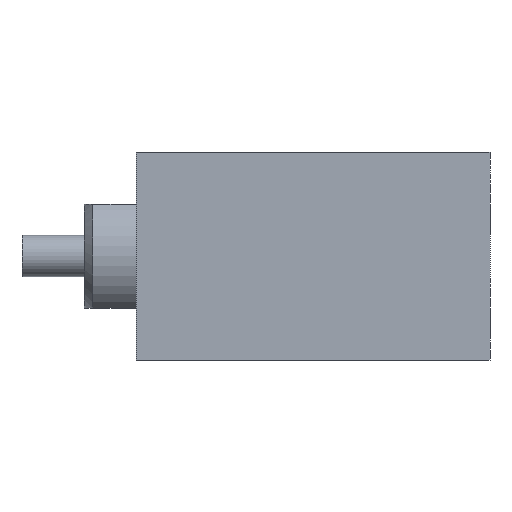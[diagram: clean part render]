
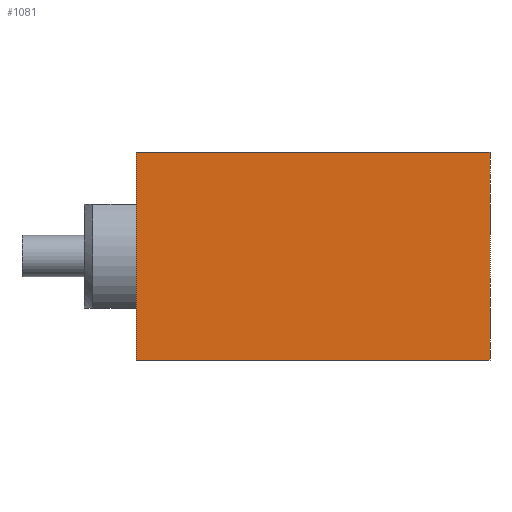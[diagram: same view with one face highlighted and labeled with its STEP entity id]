
A CAD part, front view. The second image highlights one B-rep face of the part: STEP entity #1081.
In plain terms, the highlighted planar face has unit normal (0, -1, 0).
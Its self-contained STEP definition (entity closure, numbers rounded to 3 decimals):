
#47 = CARTESIAN_POINT ( 'NONE',  ( 17., -7.5, 5. ) ) ;
#116 = DIRECTION ( 'NONE',  ( 0., -1., 0. ) ) ;
#227 = VERTEX_POINT ( 'NONE', #1193 ) ;
#303 = PLANE ( 'NONE',  #468 ) ;
#342 = ORIENTED_EDGE ( 'NONE', *, *, #812, .F. ) ;
#374 = VECTOR ( 'NONE', #1543, 1000. ) ;
#381 = VECTOR ( 'NONE', #2188, 1000. ) ;
#393 = LINE ( 'NONE', #1570, #381 ) ;
#465 = LINE ( 'NONE', #1999, #2217 ) ;
#468 = AXIS2_PLACEMENT_3D ( 'NONE', #1861, #116, #2457 ) ;
#484 = CARTESIAN_POINT ( 'NONE',  ( 0., -7.5, 5. ) ) ;
#493 = LINE ( 'NONE', #868, #1224 ) ;
#728 = EDGE_CURVE ( 'NONE', #227, #883, #1350, .T. ) ;
#812 = EDGE_CURVE ( 'NONE', #1635, #227, #465, .T. ) ;
#856 = CARTESIAN_POINT ( 'NONE',  ( 17., -7.5, -5. ) ) ;
#860 = DIRECTION ( 'NONE',  ( -1., 0., 0. ) ) ;
#868 = CARTESIAN_POINT ( 'NONE',  ( 17., -7.5, 5. ) ) ;
#883 = VERTEX_POINT ( 'NONE', #484 ) ;
#884 = EDGE_CURVE ( 'NONE', #1843, #883, #493, .T. ) ;
#1081 = ADVANCED_FACE ( 'NONE', ( #2055 ), #303, .T. ) ;
#1100 = EDGE_CURVE ( 'NONE', #1635, #1843, #393, .T. ) ;
#1193 = CARTESIAN_POINT ( 'NONE',  ( 0., -7.5, -5. ) ) ;
#1224 = VECTOR ( 'NONE', #860, 1000. ) ;
#1350 = LINE ( 'NONE', #2524, #374 ) ;
#1477 = ORIENTED_EDGE ( 'NONE', *, *, #728, .F. ) ;
#1543 = DIRECTION ( 'NONE',  ( 0., 0., 1. ) ) ;
#1570 = CARTESIAN_POINT ( 'NONE',  ( 17., -7.5, -5. ) ) ;
#1635 = VERTEX_POINT ( 'NONE', #856 ) ;
#1843 = VERTEX_POINT ( 'NONE', #47 ) ;
#1861 = CARTESIAN_POINT ( 'NONE',  ( 17., -7.5, -5. ) ) ;
#1999 = CARTESIAN_POINT ( 'NONE',  ( 17., -7.5, -5. ) ) ;
#2036 = DIRECTION ( 'NONE',  ( -1., 0., 0. ) ) ;
#2055 = FACE_OUTER_BOUND ( 'NONE', #2484, .T. ) ;
#2167 = ORIENTED_EDGE ( 'NONE', *, *, #884, .T. ) ;
#2188 = DIRECTION ( 'NONE',  ( 0., 0., 1. ) ) ;
#2217 = VECTOR ( 'NONE', #2036, 1000. ) ;
#2229 = ORIENTED_EDGE ( 'NONE', *, *, #1100, .T. ) ;
#2457 = DIRECTION ( 'NONE',  ( 1., 0., 0. ) ) ;
#2484 = EDGE_LOOP ( 'NONE', ( #1477, #342, #2229, #2167 ) ) ;
#2524 = CARTESIAN_POINT ( 'NONE',  ( 0., -7.5, -5. ) ) ;
